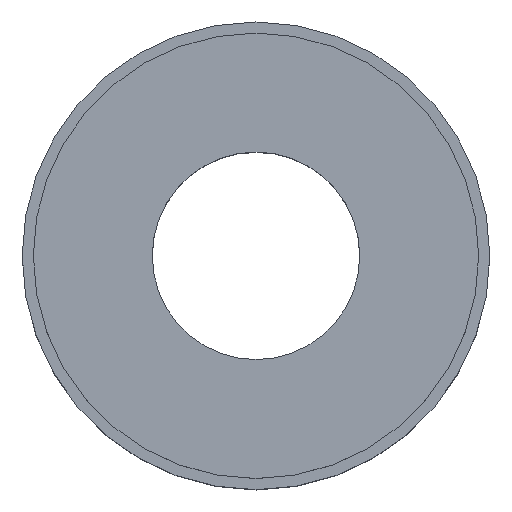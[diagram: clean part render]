
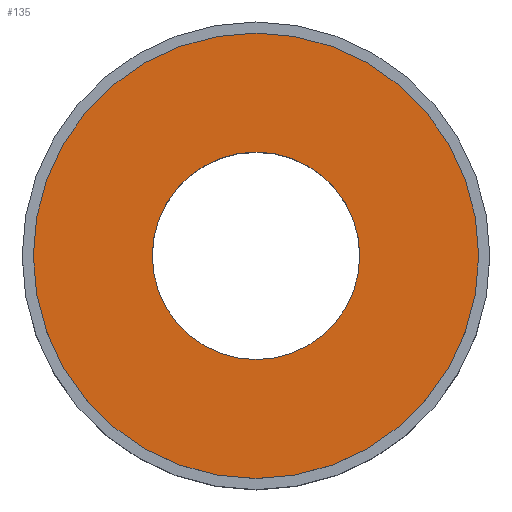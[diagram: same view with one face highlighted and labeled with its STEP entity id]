
A CAD part, top view. The second image highlights one B-rep face of the part: STEP entity #135.
In plain terms, the highlighted planar face has unit normal (0, 0, 1).
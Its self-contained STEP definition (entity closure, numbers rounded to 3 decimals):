
#14=PLANE($,#160);
#36=FACE_BOUND($,#66,.T.);
#37=FACE_BOUND($,#67,.T.);
#66=EDGE_LOOP($,(#121));
#67=EDGE_LOOP($,(#122));
#78=CIRCLE($,#155,20.);
#79=CIRCLE($,#157,9.316);
#89=VERTEX_POINT($,#232);
#90=VERTEX_POINT($,#235);
#100=EDGE_CURVE($,#89,#89,#78,.T.);
#101=EDGE_CURVE($,#90,#90,#79,.T.);
#121=ORIENTED_EDGE($,*,*,#101,.T.);
#122=ORIENTED_EDGE($,*,*,#100,.F.);
#135=ADVANCED_FACE($,(#36,#37),#14,.F.);
#155=AXIS2_PLACEMENT_3D($,#233,#194,#195);
#157=AXIS2_PLACEMENT_3D($,#236,#198,#199);
#160=AXIS2_PLACEMENT_3D($,#240,#204,#205);
#194=DIRECTION('center_axis',(0.,0.,-1.));
#195=DIRECTION('ref_axis',(-1.,0.,0.));
#198=DIRECTION('center_axis',(0.,0.,-1.));
#199=DIRECTION('ref_axis',(1.,0.,0.));
#204=DIRECTION('center_axis',(0.,0.,-1.));
#205=DIRECTION('ref_axis',(-1.,0.,0.));
#232=CARTESIAN_POINT('',(20.,0.,55.));
#233=CARTESIAN_POINT('Origin',(0.,0.,55.));
#235=CARTESIAN_POINT('',(9.316,0.,55.));
#236=CARTESIAN_POINT('Origin',(0.,0.,55.));
#240=CARTESIAN_POINT('Origin',(0.,0.,55.));
